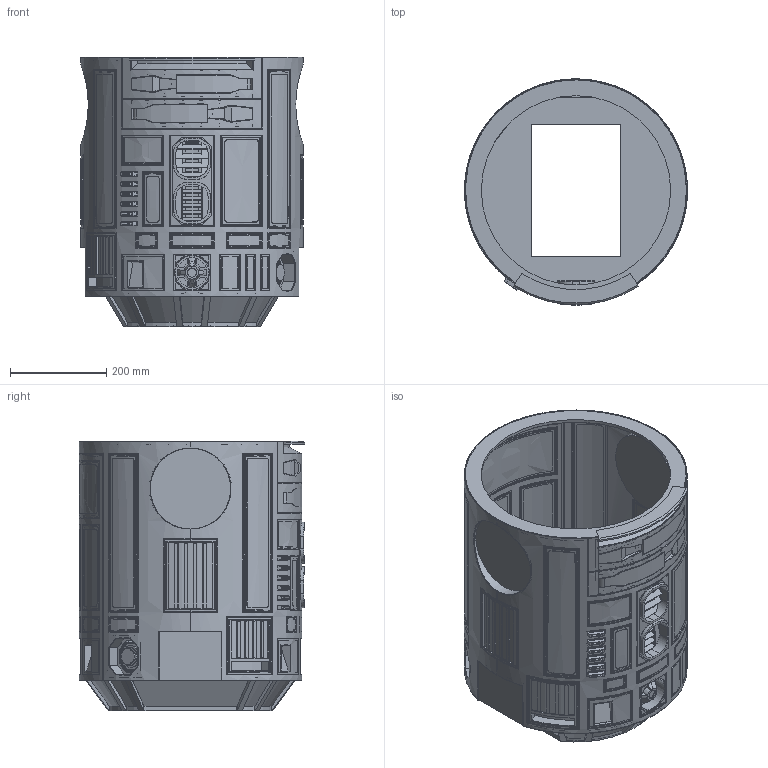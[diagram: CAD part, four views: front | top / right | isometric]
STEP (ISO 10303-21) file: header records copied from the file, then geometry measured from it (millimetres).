
FILE_DESCRIPTION(('STEP AP203'),'1');
FILE_NAME('C:/Documents and Settings/Administrator/My Documents/Dropbox/R2 Everything/R2-D2 Master/Drawings/CSR/CSR - CAD/CSR Body Assembly ANH - 20140506.stp','2014-05-22T05:40:59',(' '),(' '),'Spatial InterOp 3D',' ',' ');
FILE_SCHEMA(('CONFIG_CONTROL_DESIGN'));
Length unit declared in the file: metre
Products named in the file (144): Octogon Port 18.25; Disc; Main Housing; Back Plate - ANH; Body; Skirt Body; Part6; Skirt Assembly; Skirt Details; Part9; Power Coupler; Ear; Main; Triangle; Arc; Power Coupler Visual; Coin Slots; Part49; Center Vent Assy Top; Frame; Internals; Part2; Center Vent Assy Lower; Part1; Part7; Bottom Ring; Large Data Port; 2.0 Top; 2.0 Bottom; Large Data Port Assembly; Side Wall; Large Data Port Back; Top Ring; Side Vent; Back Panel; Side Vent Vert Bar; Pocket Vent; Coin Return - Rear Left; Part10; Coin Return - Front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
Assembly tree (177 placements, depth 6):
  Body
    Octogon Port 18.25
      Disc
      Main Housing
      Back Plate - ANH
    Skirt Assembly
      Skirt Assembly
        Skirt Body
          Part6
        Skirt Details
          Part9  x12
    Power Coupler  x2
      Power Coupler Visual
        Power Coupler
          Ear  x4
          Main
          Triangle  x4
          Arc  x4
    Coin Slots
      Part49
    Center Vent Assy Top
      Frame
      Internals
        Part2
        Part2  x2
        Part2  x4
        Part2
        Part2
        Part2
        Part2
    Center Vent Assy Lower
      Frame
      Part1
      Part7
      Part1  x4
      Part7
      Part1
    Bottom Ring
    Large Data Port Assembly
      Large Data Port
        2.0 Top
        2.0 Bottom
      Side Wall
      Side Wall
      Large Data Port Back
    Top Ring
    Side Vent
      Side Vent
      Back Panel
      Side Vent Vert Bar
    Side Vent
      Side Vent
      Back Panel
      Side Vent Vert Bar
    Pocket Vent
      Pocket Vent
      Back Panel
      Side Vent Vert Bar
    Pocket Vent
      Pocket Vent
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Bounding box: 463.55 x 469.89 x 560.39 mm (x, y, z)
Volume: 4323655.3 mm3; surface area: 3515961.3 mm2
Topology: 178 solids, 178 shells, 2565 faces, 6402 edges, 4256 vertices
Faces by surface type: plane 2131, cylinder 202, bspline 145, offset 53, cone 32, torus 2
Full cylindrical faces by diameter (mm): 3.175 x8, 6.35 x14, 15.875 x4, 19.05 x2, 24.981 x3, 29.654 x3, 34.404 x3, 35.75 x3, 38.291 x3, 46.025 x3, 69.85 x2, 168.275 x2, 171.45 x2, 393.7 x1
Entity records: 103074 total; most frequent: CARTESIAN_POINT 51273, ORIENTED_EDGE 9686, DIRECTION 7759, EDGE_CURVE 4843, VERTEX_POINT 3243, LINE 3173, VECTOR 3173, EDGE_LOOP 2340
